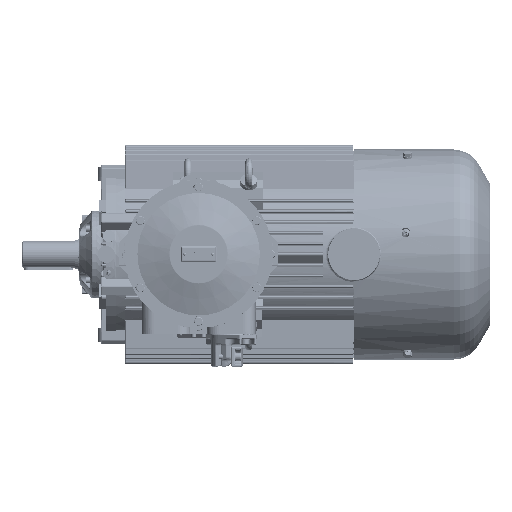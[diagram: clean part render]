
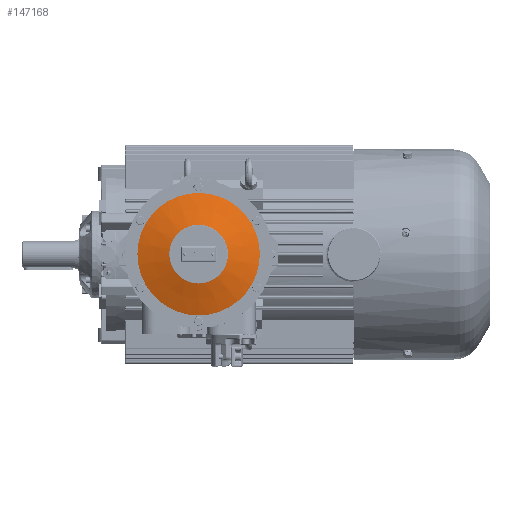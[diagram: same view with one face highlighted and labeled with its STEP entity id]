
A CAD part, top view. The second image highlights one B-rep face of the part: STEP entity #147168.
In plain terms, the highlighted conical face has half-angle 73.102 degrees and reference radius 125.668 mm.
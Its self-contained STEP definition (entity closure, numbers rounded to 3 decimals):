
#40339=ORIENTED_EDGE('',*,*,#76964,.F.);
#40340=ORIENTED_EDGE('',*,*,#76962,.T.);
#76962=EDGE_CURVE('',#95663,#95663,#108004,.T.);
#76964=EDGE_CURVE('',#95665,#95665,#108006,.T.);
#95663=VERTEX_POINT('',#214849);
#95665=VERTEX_POINT('',#214854);
#108004=CIRCLE('',#156226,60.315);
#108006=CIRCLE('',#156229,125.668);
#112912=EDGE_LOOP('',(#40339));
#112913=EDGE_LOOP('',(#40340));
#123318=FACE_BOUND('',#112912,.T.);
#123319=FACE_BOUND('',#112913,.T.);
#132322=CONICAL_SURFACE('',#156228,125.668,1.276);
#147168=ADVANCED_FACE('',(#123318,#123319),#132322,.T.);
#156226=AXIS2_PLACEMENT_3D('',#214848,#171909,#171910);
#156228=AXIS2_PLACEMENT_3D('',#214852,#171913,#171914);
#156229=AXIS2_PLACEMENT_3D('',#214853,#171915,#171916);
#171909=DIRECTION('',(0.,0.,-1.));
#171910=DIRECTION('',(0.,1.,0.));
#171913=DIRECTION('',(0.,0.,-1.));
#171914=DIRECTION('',(0.,1.,0.));
#171915=DIRECTION('',(0.,0.,-1.));
#171916=DIRECTION('',(0.,1.,0.));
#214848=CARTESIAN_POINT('',(176.,0.,451.853));
#214849=CARTESIAN_POINT('',(176.,60.315,451.853));
#214852=CARTESIAN_POINT('',(176.,0.,432.));
#214853=CARTESIAN_POINT('',(176.,0.,432.));
#214854=CARTESIAN_POINT('',(176.,125.668,432.));
